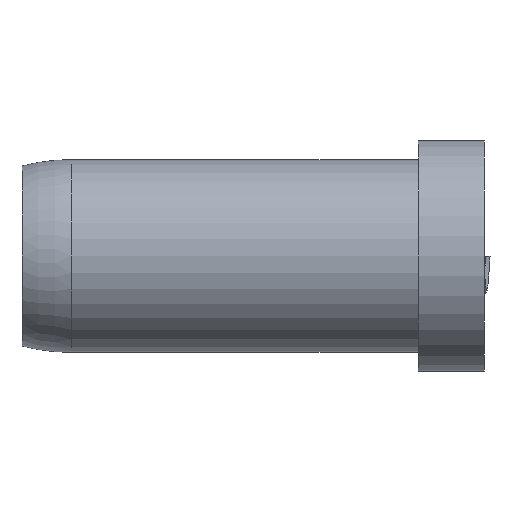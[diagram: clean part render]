
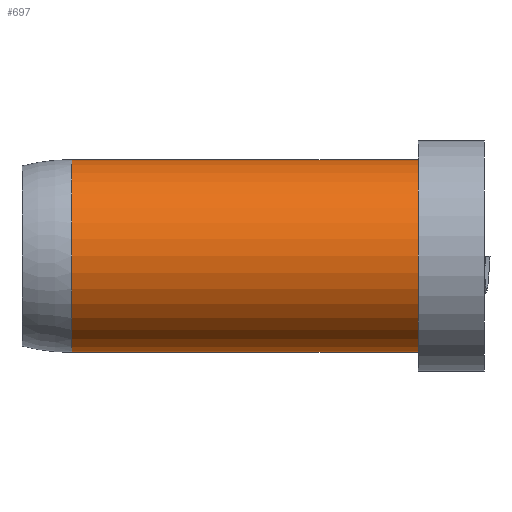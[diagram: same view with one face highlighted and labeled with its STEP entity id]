
A CAD part, front view. The second image highlights one B-rep face of the part: STEP entity #697.
In plain terms, the highlighted cylindrical face has radius 9.271 mm (diameter 18.542 mm), a partial arc.
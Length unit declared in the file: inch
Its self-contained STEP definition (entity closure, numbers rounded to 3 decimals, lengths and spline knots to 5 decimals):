
#167 = CARTESIAN_POINT ( 'NONE',  ( -0.75, 0., 0. ) ) ;
#408 = VECTOR ( 'NONE', #2856, 39.37008 ) ;
#484 = DIRECTION ( 'NONE',  ( 0., 0., 1. ) ) ;
#541 = DIRECTION ( 'NONE',  ( -1., 0., 0. ) ) ;
#549 = CIRCLE ( 'NONE', #1745, 0.365 ) ;
#560 = CARTESIAN_POINT ( 'NONE',  ( -0.75, 0., 0.365 ) ) ;
#602 = CARTESIAN_POINT ( 'NONE',  ( -2.25, 0., 0.365 ) ) ;
#619 = FACE_OUTER_BOUND ( 'NONE', #2697, .T. ) ;
#697 = ADVANCED_FACE ( 'NONE', ( #619 ), #2136, .T. ) ;
#739 = CARTESIAN_POINT ( 'NONE',  ( -2.25, 0., 0. ) ) ;
#743 = ORIENTED_EDGE ( 'NONE', *, *, #2840, .F. ) ;
#1051 = CARTESIAN_POINT ( 'NONE',  ( -2.0625, 0., 0. ) ) ;
#1183 = ORIENTED_EDGE ( 'NONE', *, *, #4137, .T. ) ;
#1315 = LINE ( 'NONE', #3118, #2927 ) ;
#1367 = DIRECTION ( 'NONE',  ( 0., 0., 1. ) ) ;
#1642 = VERTEX_POINT ( 'NONE', #3568 ) ;
#1735 = CIRCLE ( 'NONE', #3558, 0.365 ) ;
#1745 = AXIS2_PLACEMENT_3D ( 'NONE', #1051, #3304, #1367 ) ;
#1819 = VERTEX_POINT ( 'NONE', #560 ) ;
#1824 = DIRECTION ( 'NONE',  ( 0., 0., 1. ) ) ;
#1884 = ORIENTED_EDGE ( 'NONE', *, *, #2634, .T. ) ;
#1986 = EDGE_CURVE ( 'NONE', #4163, #1819, #1735, .T. ) ;
#2136 = CYLINDRICAL_SURFACE ( 'NONE', #3851, 0.365 ) ;
#2224 = CARTESIAN_POINT ( 'NONE',  ( -0.75, 0., -0.365 ) ) ;
#2409 = DIRECTION ( 'NONE',  ( -1., 0., 0. ) ) ;
#2634 = EDGE_CURVE ( 'NONE', #1642, #4156, #549, .T. ) ;
#2697 = EDGE_LOOP ( 'NONE', ( #743, #3917, #1183, #1884 ) ) ;
#2840 = EDGE_CURVE ( 'NONE', #4163, #4156, #1315, .T. ) ;
#2856 = DIRECTION ( 'NONE',  ( -1., 0., 0. ) ) ;
#2927 = VECTOR ( 'NONE', #541, 39.37008 ) ;
#3118 = CARTESIAN_POINT ( 'NONE',  ( -2.25, 0., -0.365 ) ) ;
#3304 = DIRECTION ( 'NONE',  ( 1., 0., 0. ) ) ;
#3558 = AXIS2_PLACEMENT_3D ( 'NONE', #167, #2409, #484 ) ;
#3568 = CARTESIAN_POINT ( 'NONE',  ( -2.0625, 0., 0.365 ) ) ;
#3756 = DIRECTION ( 'NONE',  ( -1., 0., 0. ) ) ;
#3832 = LINE ( 'NONE', #602, #408 ) ;
#3851 = AXIS2_PLACEMENT_3D ( 'NONE', #739, #3756, #1824 ) ;
#3917 = ORIENTED_EDGE ( 'NONE', *, *, #1986, .T. ) ;
#4137 = EDGE_CURVE ( 'NONE', #1819, #1642, #3832, .T. ) ;
#4155 = CARTESIAN_POINT ( 'NONE',  ( -2.0625, 0., -0.365 ) ) ;
#4156 = VERTEX_POINT ( 'NONE', #4155 ) ;
#4163 = VERTEX_POINT ( 'NONE', #2224 ) ;
